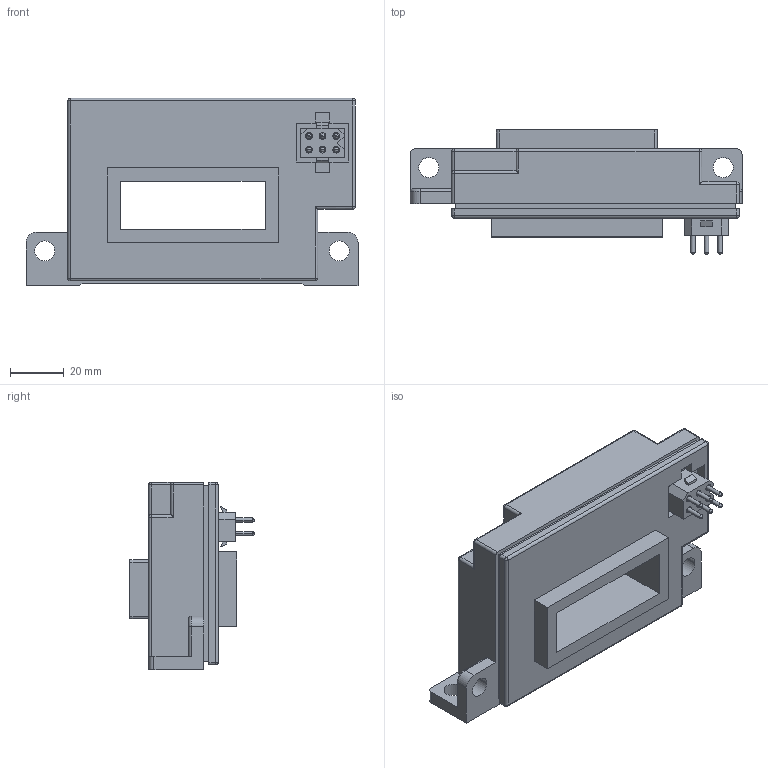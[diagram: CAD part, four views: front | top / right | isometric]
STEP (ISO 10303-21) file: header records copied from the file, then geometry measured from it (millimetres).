
FILE_DESCRIPTION(('Creo Elements/Direct Modeling STEP Export'),'2;1');
FILE_NAME('HAR 1000-S.stp','2017-10-24T13:21:18',(''),(''),'PTC Creo Elements/Direct Modeling STEP processor for AP214 (Solid Model)','PTC Creo Elements/Direct Modeling 19.0E 27-Jun-2016 (C) Parametric Technology GmbH','');
FILE_SCHEMA(('AUTOMOTIVE_DESIGN { 1 0 10303 214 1 1 1 1 }'));
Length unit declared in the file: millimetre
Products named in the file (2): BLACKBOX_HAR; Assembly-1
Assembly tree (1 placements, depth 2):
  Assembly-1
    BLACKBOX_HAR
Bounding box: 124 x 46.4 x 70 mm (x, y, z)
Volume: 159545.1 mm3; surface area: 34425 mm2
Topology: 1 solids, 2 shells, 265 faces, 677 edges, 432 vertices
Faces by surface type: plane 153, cylinder 87, torus 14, sphere 11
Entity records: 8818 total; most frequent: CARTESIAN_POINT 1610, ORIENTED_EDGE 1332, DIRECTION 1275, EDGE_CURVE 666, VECTOR 453, LINE 453, VERTEX_POINT 432, AXIS2_PLACEMENT_3D 411
